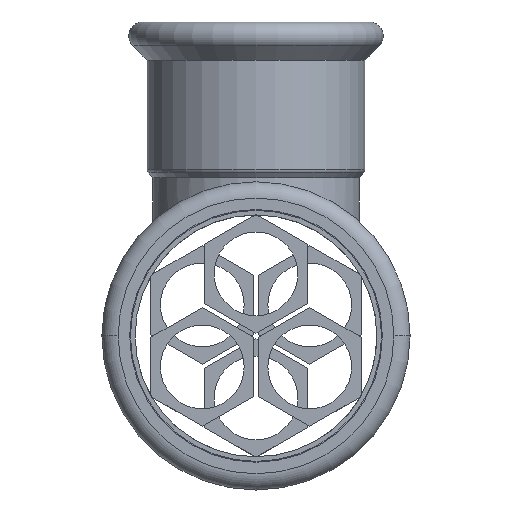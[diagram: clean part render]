
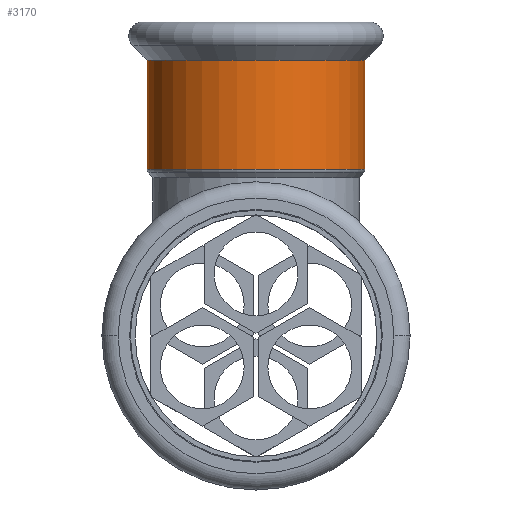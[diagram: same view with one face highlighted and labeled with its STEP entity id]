
A CAD part, left-side view. The second image highlights one B-rep face of the part: STEP entity #3170.
In plain terms, the highlighted cylindrical face has radius 46.85 mm (diameter 93.7 mm), a partial arc.
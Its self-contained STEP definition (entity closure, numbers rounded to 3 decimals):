
#1780=CARTESIAN_POINT('',(54.615,-46.85,0.));
#1790=VERTEX_POINT('',#1780);
#1970=CARTESIAN_POINT('',(54.615,46.85,0.))
;
#1980=VERTEX_POINT('',#1970);
#2010=CARTESIAN_POINT('',(54.615,0.,0.));
#2020=DIRECTION('',(1.,0.,0.));
#2030=DIRECTION('',(0.,1.,0.));
#2040=AXIS2_PLACEMENT_3D('',#2010,#2020,#2030);
#2050=CIRCLE('',#2040,46.85);
#2850=CARTESIAN_POINT('',(45.44,0.,0.));
#2860=DIRECTION('',(-1.,0.,0.));
#2870=DIRECTION('',(0.,1.,0.));
#2880=AXIS2_PLACEMENT_3D('',#2850,#2860,#2870);
#2890=CYLINDRICAL_SURFACE('',#2880,46.85);
#2900=CARTESIAN_POINT('',(45.44,46.85,0.));
#2910=DIRECTION('',(-1.,0.,0.));
#2920=VECTOR('',#2910,1.);
#2930=LINE('',#2900,#2920);
#2940=CARTESIAN_POINT('',(7.588,46.85,0.));
#2950=VERTEX_POINT('',#2940);
#2960=EDGE_CURVE('',#1980,#2950,#2930,.T.);
#2970=ORIENTED_EDGE('',*,*,#2960,.T.);
#2980=EDGE_CURVE('',#1980,#1790,#2050,.T.);
#2990=ORIENTED_EDGE('',*,*,#2980,.F.);
#3000=CARTESIAN_POINT('',(45.44,-46.85,0.)
);
#3010=DIRECTION('',(-1.,0.,0.));
#3020=VECTOR('',#3010,1.);
#3030=LINE('',#3000,#3020);
#3040=CARTESIAN_POINT('',(7.588,-46.85,0.));
#3050=VERTEX_POINT('',#3040);
#3060=EDGE_CURVE('',#1790,#3050,#3030,.T.);
#3070=ORIENTED_EDGE('',*,*,#3060,.F.);
#3080=CARTESIAN_POINT('',(7.588,0.,0.));
#3090=DIRECTION('',(-1.,0.,0.));
#3100=DIRECTION('',(0.,1.,0.));
#3110=AXIS2_PLACEMENT_3D('',#3080,#3090,#3100);
#3120=CIRCLE('',#3110,46.85);
#3130=EDGE_CURVE('',#3050,#2950,#3120,.T.);
#3140=ORIENTED_EDGE('',*,*,#3130,.F.);
#3150=EDGE_LOOP('',(#3140,#3070,#2990,#2970));
#3160=FACE_OUTER_BOUND('',#3150,.T.);
#3170=ADVANCED_FACE('',(#3160),#2890,.T.);
